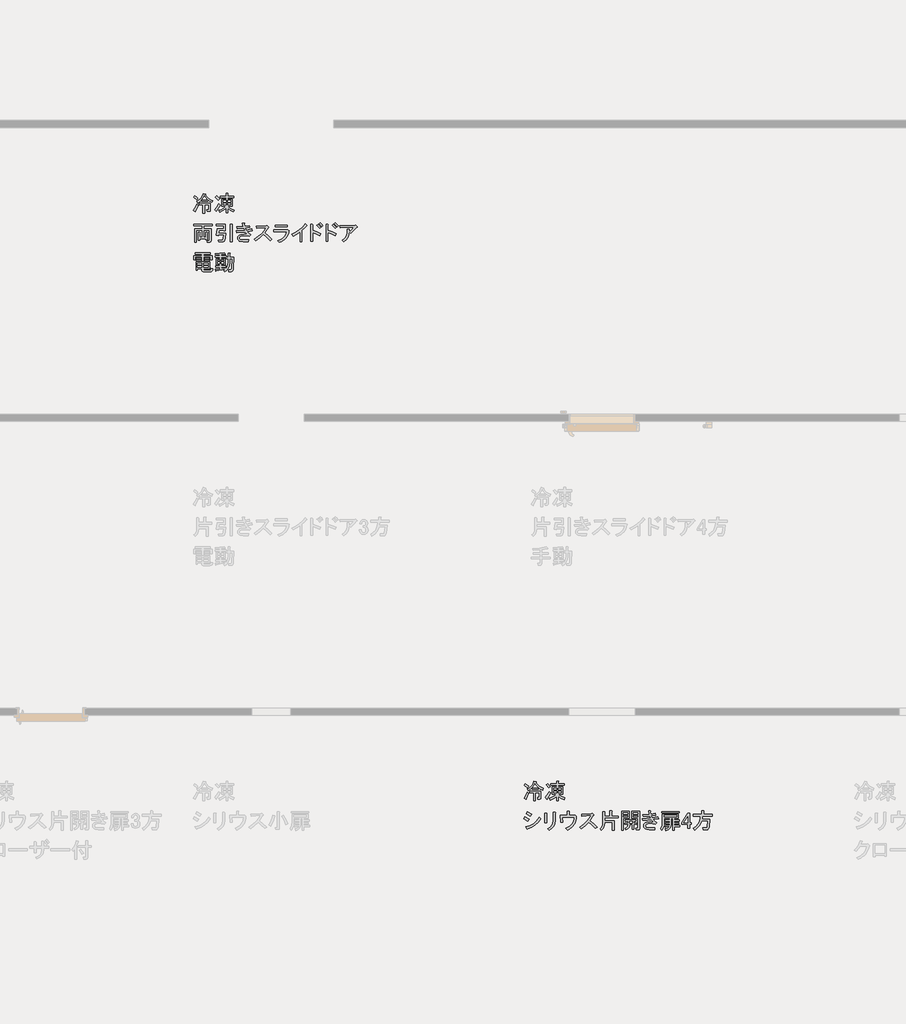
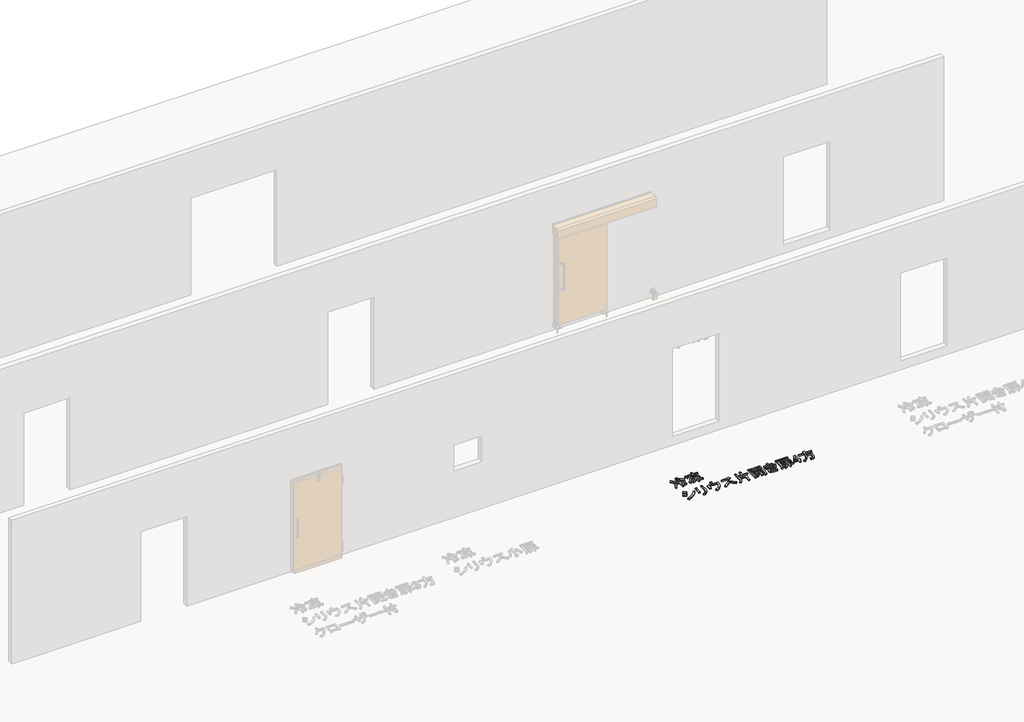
# One storey, part 99 of 117: 2 proxies.
"""IFC4 building model written with IfcOpenShell, lengths in millimetres."""

from ifc_helpers import new_model, si_unit, frame, origin, place, context, project, spatial, polyline, outline, extrude, element, save

model = new_model("IFC4")

# Units and contexts
model_context = context("Model", 3, world=origin())
ifc_project = project(units=[si_unit("LENGTHUNIT", "METRE", prefix="MILLI")], contexts=[model_context])

# Site, building, storey
site = spatial("IfcSite", under=ifc_project)
building = spatial("IfcBuilding", under=site)
storey = spatial("IfcBuildingStorey", under=building, Name="レベル 1", Elevation=500.0)

# Proxies
placement = place(None, origin())
element("IfcBuildingElementProxy", 1, Name="200㎜\u3000MS Pゴシック", ObjectType="200㎜\u3000MS Pゴシック", at=placement, inside=storey, context=model_context, shape_type="SweptSolid", body=[
    extrude(outline(polyline([(10383.6029468, 26948.5050774), (10417.2964447, 26967.9021871), (10443.6621457, 26991.6097656), (10462.7000496, 27019.6278129), (10474.4101566, 27051.9563291), (10505.4455321, 27043.9101206), (10506.882355, 27040.174381), (10501.997157, 27038.1628289), (10520.8195376, 27010.6476696), (10543.9523869, 26987.874026), (10571.3957051, 26969.8418981), (10603.149492, 26956.5512859), (10591.6549085, 26932.4126605), (10562.6310851, 26945.9187961), (10533.0325326, 26965.7469527), (10533.0325326, 26946.2061607), (10450.2715312, 26946.2061607), (10450.2715312, 26964.5974943), (10425.8455412, 26942.7577856), (10396.2469887, 26923.2169937), (10383.6029468, 26948.5050774)]), holes=[polyline([(10530.7336159, 26968.0458694), (10504.5834383, 26995.3455052), (10488.2036568, 27022.0704119), (10474.4101566, 26993.0465885), (10453.7199063, 26968.0458694), (10530.7336159, 26968.0458694)])]), frame((0.0, 0.0, 500.0), z_axis=(0.0, 0.0, 1.0), x_axis=(1.0, 0.0, 0.0)), (0.0, 0.0, 1.0), 25.0),
    extrude(outline(polyline([(10341.0729878, 26822.0646587), (10364.0621548, 26861.7209718), (10382.4534884, 26904.82566), (10403.1437388, 26892.1816181), (10385.6144989, 26848.2148362), (10367.5105299, 26812.8689919), (10366.9358007, 26806.5469709), (10362.9126965, 26805.9722417), (10341.0729878, 26822.0646587)])), frame((0.0, 0.0, 500.0), z_axis=(0.0, 0.0, 1.0), x_axis=(1.0, 0.0, 0.0)), (0.0, 0.0, 1.0), 25.0),
    extrude(outline(polyline([(10420.3856141, 26897.9289099), (10420.3856141, 26919.7686186), (10569.8151998, 26919.7686186), (10569.8151998, 26825.5130337), (10565.7920956, 26814.3058148), (10553.7227829, 26810.5700752), (10528.4346991, 26810.5700752), (10523.8368657, 26832.4097838), (10542.2281994, 26832.4097838), (10545.6765744, 26833.5592422), (10546.8260328, 26837.0076172), (10546.8260328, 26897.9289099), (10492.8014902, 26897.9289099), (10492.8014902, 26786.4314498), (10469.8123232, 26786.4314498), (10469.8123232, 26897.9289099), (10420.3856141, 26897.9289099)])), frame((0.0, 0.0, 500.0), z_axis=(0.0, 0.0, 1.0), x_axis=(1.0, 0.0, 0.0)), (0.0, 0.0, 1.0), 25.0),
    extrude(outline(polyline([(10358.314863, 27022.0704119), (10379.0051134, 27009.1390055), (10401.9942804, 26988.7361197), (10385.9018635, 26965.7469527), (10344.5213628, 27000.2307032), (10358.314863, 27022.0704119)])), frame((0.0, 0.0, 500.0), z_axis=(0.0, 0.0, 1.0), x_axis=(1.0, 0.0, 0.0)), (0.0, 0.0, 1.0), 25.0),
    extrude(outline(polyline([(10652.5762012, 26812.8689919), (10652.8635658, 26808.2711584), (10649.1278261, 26808.2711584), (10629.5870341, 26832.4097838), (10658.0361283, 26868.9050865), (10683.6115767, 26911.7224101), (10702.0029103, 26894.4805349), (10678.7263787, 26852.2379404), (10652.5762012, 26812.8689919)])), frame((0.0, 0.0, 500.0), z_axis=(0.0, 0.0, 1.0), x_axis=(1.0, 0.0, 0.0)), (0.0, 0.0, 1.0), 25.0),
    extrude(outline(polyline([(10659.4729513, 27022.0704119), (10696.2556185, 26981.8393696), (10675.5653682, 26962.2985776), (10639.9321593, 27004.8285366), (10659.4729513, 27022.0704119)])), frame((0.0, 0.0, 500.0), z_axis=(0.0, 0.0, 1.0), x_axis=(1.0, 0.0, 0.0)), (0.0, 0.0, 1.0), 25.0),
    extrude(outline(polyline([(10806.6036203, 26787.5809081), (10783.6144533, 26787.5809081), (10783.6144533, 26849.6516591), (10769.0307005, 26835.4989532), (10749.4180673, 26821.7772941), (10695.1061602, 26795.6271166), (10685.9104934, 26822.0646587), (10715.5090459, 26832.9126719), (10741.0844943, 26845.9159195), (10762.6368384, 26861.0744015), (10780.1660782, 26878.3881179), (10724.9920773, 26878.3881179), (10724.9920773, 26977.2415362), (10783.6144533, 26977.2415362), (10783.6144533, 26996.7823282), (10703.1523687, 26996.7823282), (10703.1523687, 27018.6220369), (10783.6144533, 27018.6220369), (10783.6144533, 27053.1057874), (10805.454162, 27053.1057874), (10810.33936, 27050.8068707), (10806.6036203, 27046.2090373), (10806.6036203, 27018.6220369), (10887.065705, 27018.6220369), (10887.065705, 26996.7823282), (10806.6036203, 26996.7823282), (10806.6036203, 26977.2415362), (10866.3754546, 26977.2415362), (10866.3754546, 26878.3881179), (10807.7530787, 26878.3881179), (10826.1444123, 26862.295701), (10846.8346627, 26848.5022008), (10895.1119134, 26827.8119504), (10884.7667883, 26802.5238667), (10841.6621001, 26823.5014816), (10806.6036203, 26849.6516591), (10806.6036203, 26787.5809081)]), holes=[polyline([(10806.6036203, 26937.0104939), (10846.8346627, 26937.0104939), (10846.8346627, 26958.8502026), (10806.6036203, 26958.8502026), (10806.6036203, 26937.0104939)]), polyline([(10806.6036203, 26896.7794516), (10846.8346627, 26896.7794516), (10846.8346627, 26918.6191602), (10806.6036203, 26918.6191602), (10806.6036203, 26896.7794516)]), polyline([(10744.5328693, 26896.7794516), (10783.6144533, 26896.7794516), (10783.6144533, 26918.6191602), (10744.5328693, 26918.6191602), (10744.5328693, 26896.7794516)]), polyline([(10744.5328693, 26937.0104939), (10783.6144533, 26937.0104939), (10783.6144533, 26958.8502026), (10744.5328693, 26958.8502026), (10744.5328693, 26937.0104939)])]), frame((0.0, 0.0, 500.0), z_axis=(0.0, 0.0, 1.0), x_axis=(1.0, 0.0, 0.0)), (0.0, 0.0, 1.0), 25.0),
    extrude(outline(polyline([(10480.1574484, 26611.7252868), (10480.1574484, 26576.0920778), (10581.3097833, 26576.0920778), (10581.3097833, 26407.1217001), (10577.2866791, 26395.0523874), (10565.2173664, 26391.0292832), (10529.5841575, 26391.0292832), (10526.1357824, 26412.8689919), (10553.7227829, 26412.8689919), (10557.1711579, 26414.0184502), (10558.3206163, 26417.4668253), (10558.3206163, 26554.2523692), (10480.1574484, 26554.2523692), (10480.1574484, 26458.8473259), (10507.7444488, 26458.8473259), (10507.7444488, 26524.366452), (10529.5841575, 26524.366452), (10534.4693555, 26522.0675353), (10530.7336159, 26517.4697019), (10530.7336159, 26426.6624921), (10507.7444488, 26426.6624921), (10507.7444488, 26437.0076172), (10429.5812809, 26437.0076172), (10429.5812809, 26417.4668253), (10406.5921138, 26417.4668253), (10406.5921138, 26524.366452), (10428.4318225, 26524.366452), (10433.3170205, 26522.0675353), (10429.5812809, 26517.4697019), (10429.5812809, 26458.8473259), (10457.1682813, 26458.8473259), (10457.1682813, 26554.2523692), (10379.0051134, 26554.2523692), (10379.0051134, 26392.1787415), (10356.0159463, 26392.1787415), (10356.0159463, 26576.0920778), (10457.1682813, 26576.0920778), (10457.1682813, 26611.7252868), (10342.2224461, 26611.7252868), (10342.2224461, 26633.5649954), (10595.1032836, 26633.5649954), (10595.1032836, 26611.7252868), (10480.1574484, 26611.7252868)])), frame((0.0, 0.0, 500.0), z_axis=(0.0, 0.0, 1.0), x_axis=(1.0, 0.0, 0.0)), (0.0, 0.0, 1.0), 25.0),
    extrude(outline(polyline([(10780.1660782, 26511.7224101), (10770.9704114, 26441.8928152), (10764.6483905, 26419.2628539), (10757.1769112, 26404.8227834), (10746.5444214, 26397.0639395), (10730.7393691, 26394.4776582), (10684.761035, 26394.4776582), (10681.31266, 26416.3173669), (10723.842619, 26416.3173669), (10734.4751088, 26418.328919), (10741.0844943, 26424.3635754), (10749.1307027, 26448.2148362), (10754.8779945, 26489.8827014), (10677.8642849, 26489.8827014), (10675.5653682, 26478.3881179), (10651.4267428, 26481.836493), (10667.5191597, 26574.9426195), (10753.7285361, 26574.9426195), (10753.7285361, 26611.7252868), (10647.9783678, 26611.7252868), (10647.9783678, 26633.5649954), (10776.7177032, 26633.5649954), (10776.7177032, 26547.355619), (10753.7285361, 26547.355619), (10753.7285361, 26553.1029108), (10689.3588684, 26553.1029108), (10682.4621183, 26511.7224101), (10780.1660782, 26511.7224101)])), frame((0.0, 0.0, 500.0), z_axis=(0.0, 0.0, 1.0), x_axis=(1.0, 0.0, 0.0)), (0.0, 0.0, 1.0), 25.0),
    extrude(outline(polyline([(10866.3754546, 26396.7765749), (10843.3862876, 26396.7765749), (10843.3862876, 26637.0133705), (10865.2259963, 26637.0133705), (10870.1111943, 26634.7144538), (10866.3754546, 26630.1166204), (10866.3754546, 26396.7765749)])), frame((0.0, 0.0, 500.0), z_axis=(0.0, 0.0, 1.0), x_axis=(1.0, 0.0, 0.0)), (0.0, 0.0, 1.0), 25.0),
    extrude(outline(polyline([(11046.8404159, 26582.988828), (11060.6339161, 26554.2523692), (11133.0497923, 26570.3447861), (11143.3949175, 26546.2061607), (11073.277958, 26533.5621188), (11093.1061146, 26511.147681), (11118.1068337, 26489.8827014), (11098.5660418, 26470.3419095), (11061.4960099, 26477.2386596), (11033.0469157, 26479.5375763), (10995.1147901, 26476.0892012), (10982.1833836, 26471.7787324), (10973.2750814, 26465.7440761), (10967.240425, 26457.410503), (10965.2288729, 26448.5022008), (10966.9530605, 26438.1570756), (10972.125623, 26430.1108671), (10989.6548629, 26423.214117), (11023.8512489, 26420.9152003), (11093.9682084, 26420.9152003), (11089.3703749, 26395.6271166), (11019.2534155, 26395.6271166), (10980.1718315, 26400.22495), (10965.8036021, 26405.9722417), (10954.8837478, 26414.0184502), (10944.5386226, 26429.8235025), (10941.0902475, 26449.6516591), (10944.251258, 26465.7440761), (10953.7342894, 26479.5375763), (10966.0909667, 26488.0866728), (10983.6202066, 26494.1931703), (11034.196374, 26499.0783683), (11075.5768747, 26495.6299932), (11046.8404159, 26528.9642854), (10990.2295921, 26523.7917228), (10928.4462057, 26522.0675353), (10924.9978306, 26546.2061607), (10981.896019, 26546.7808899), (11035.3458324, 26550.8039941), (11022.7017905, 26579.5404529), (10934.1934974, 26576.0920778), (10931.8945807, 26599.0812449), (11016.9544988, 26601.3801616), (11007.7588319, 26648.507954), (11033.0469157, 26648.507954), (11039.081572, 26645.059579), (11034.196374, 26639.3122872), (11039.9436658, 26604.8285366), (11100.8649585, 26616.3231202), (11108.9111669, 26593.3339531), (11046.8404159, 26582.988828)])), frame((0.0, 0.0, 500.0), z_axis=(0.0, 0.0, 1.0), x_axis=(1.0, 0.0, 0.0)), (0.0, 0.0, 1.0), 25.0),
    extrude(outline(polyline([(11311.2618152, 26517.4697019), (11360.4011598, 26476.6639304), (11408.9657751, 26430.1108671), (11385.9766081, 26410.5700752), (11338.5614511, 26457.1231384), (11292.8704816, 26495.6299932), (11244.8805954, 26449.9390237), (11190.5686883, 26409.4206168), (11168.7289796, 26428.9614088), (11224.1903451, 26468.6177219), (11268.7318562, 26508.2740351), (11302.353513, 26547.9303482), (11325.0553154, 26587.5866614), (11199.7643551, 26579.5404529), (11196.31598, 26607.1274534), (11329.6531489, 26612.8747451), (11343.4466491, 26616.3231202), (11361.8379827, 26597.9317865), (11364.7116286, 26591.322401), (11357.2401493, 26587.5866614), (11311.2618152, 26517.4697019)])), frame((0.0, 0.0, 500.0), z_axis=(0.0, 0.0, 1.0), x_axis=(1.0, 0.0, 0.0)), (0.0, 0.0, 1.0), 25.0),
    extrude(outline(polyline([(11615.1786035, 26597.9317865), (11456.5533509, 26597.9317865), (11456.5533509, 26623.2198703), (11615.1786035, 26623.2198703), (11615.1786035, 26597.9317865)])), frame((0.0, 0.0, 500.0), z_axis=(0.0, 0.0, 1.0), x_axis=(1.0, 0.0, 0.0)), (0.0, 0.0, 1.0), 25.0),
    extrude(outline(polyline([(11485.2898097, 26411.7195335), (11534.9320423, 26430.039026), (11555.1732855, 26442.1622195), (11572.3612799, 26456.2610446), (11586.4960256, 26472.3355013), (11597.5775225, 26490.3855895), (11605.6057707, 26510.4113092), (11610.5807701, 26532.4126605), (11435.8631006, 26532.4126605), (11435.8631006, 26557.7007442), (11611.7302284, 26557.7007442), (11622.0753536, 26561.1491193), (11642.765604, 26548.5050774), (11645.6392498, 26543.0451502), (11640.4666872, 26538.1599522), (11634.3422295, 26510.6807135), (11625.1645229, 26485.7159149), (11612.9335677, 26463.2655565), (11597.6493636, 26443.3296382), (11579.3119109, 26425.90816), (11557.9212093, 26411.001122), (11533.4772591, 26398.6085242), (11505.9800601, 26388.7303665), (11485.2898097, 26411.7195335)])), frame((0.0, 0.0, 500.0), z_axis=(0.0, 0.0, 1.0), x_axis=(1.0, 0.0, 0.0)), (0.0, 0.0, 1.0), 25.0),
    extrude(outline(polyline([(11677.6631595, 26496.7794516), (11734.3458245, 26524.6538166), (11783.7006925, 26557.7007442), (11825.7277635, 26595.9202344), (11860.4270375, 26639.3122872), (11882.2667462, 26620.9209536), (11884.8530275, 26614.8862972), (11874.2205377, 26610.5758284), (11849.2198186, 26581.552005), (11817.8970785, 26551.9534525), (11817.8970785, 26395.6271166), (11791.4595364, 26395.6271166), (11791.4595364, 26530.1137438), (11747.780119, 26500.5151912), (11697.2039515, 26473.7902845), (11677.6631595, 26496.7794516)])), frame((0.0, 0.0, 500.0), z_axis=(0.0, 0.0, 1.0), x_axis=(1.0, 0.0, 0.0)), (0.0, 0.0, 1.0), 25.0),
    extrude(outline(polyline([(12062.6397508, 26480.6870346), (12007.1783853, 26506.5498475), (11962.6368742, 26522.0675353), (11962.6368742, 26402.5238667), (11936.1993321, 26402.5238667), (11936.1993321, 26632.4155371), (11959.1884991, 26632.4155371), (11966.947343, 26629.5418912), (11962.6368742, 26623.2198703), (11962.6368742, 26550.8039941), (12019.247698, 26531.8379313), (12076.433251, 26507.1245767), (12062.6397508, 26480.6870346)])), frame((0.0, 0.0, 500.0), z_axis=(0.0, 0.0, 1.0), x_axis=(1.0, 0.0, 0.0)), (0.0, 0.0, 1.0), 25.0),
    extrude(outline(polyline([(12060.3408341, 26581.8393696), (12040.8000421, 26603.6790783), (12021.2592501, 26620.9209536), (12036.2022087, 26632.4155371), (12055.7430007, 26615.1736618), (12075.2837927, 26593.3339531), (12060.3408341, 26581.8393696)])), frame((0.0, 0.0, 500.0), z_axis=(0.0, 0.0, 1.0), x_axis=(1.0, 0.0, 0.0)), (0.0, 0.0, 1.0), 25.0),
    extrude(outline(polyline([(12087.9278345, 26603.6790783), (12070.9733238, 26622.9325057), (12049.9957089, 26641.6112039), (12064.9386675, 26653.1057874), (12084.1920949, 26636.7260059), (12102.8707931, 26615.1736618), (12087.9278345, 26603.6790783)])), frame((0.0, 0.0, 500.0), z_axis=(0.0, 0.0, 1.0), x_axis=(1.0, 0.0, 0.0)), (0.0, 0.0, 1.0), 25.0),
    extrude(outline(polyline([(12271.5653009, 26480.6870346), (12216.1039354, 26506.5498475), (12171.5624242, 26522.0675353), (12171.5624242, 26402.5238667), (12145.1248821, 26402.5238667), (12145.1248821, 26632.4155371), (12168.1140492, 26632.4155371), (12175.872893, 26629.5418912), (12171.5624242, 26623.2198703), (12171.5624242, 26550.8039941), (12228.1732481, 26531.8379313), (12285.3588011, 26507.1245767), (12271.5653009, 26480.6870346)])), frame((0.0, 0.0, 500.0), z_axis=(0.0, 0.0, 1.0), x_axis=(1.0, 0.0, 0.0)), (0.0, 0.0, 1.0), 25.0),
    extrude(outline(polyline([(12269.2663841, 26581.8393696), (12249.7255922, 26603.6790783), (12230.1848002, 26620.9209536), (12245.1277588, 26632.4155371), (12264.6685507, 26615.1736618), (12284.2093427, 26593.3339531), (12269.2663841, 26581.8393696)])), frame((0.0, 0.0, 500.0), z_axis=(0.0, 0.0, 1.0), x_axis=(1.0, 0.0, 0.0)), (0.0, 0.0, 1.0), 25.0),
    extrude(outline(polyline([(12296.8533846, 26603.6790783), (12279.8988739, 26622.9325057), (12258.921259, 26641.6112039), (12273.8642176, 26653.1057874), (12293.117645, 26636.7260059), (12311.7963432, 26615.1736618), (12296.8533846, 26603.6790783)])), frame((0.0, 0.0, 500.0), z_axis=(0.0, 0.0, 1.0), x_axis=(1.0, 0.0, 0.0)), (0.0, 0.0, 1.0), 25.0),
    extrude(outline(polyline([(12459.8006006, 26530.1137438), (12455.9930198, 26488.8769254), (12442.2713607, 26452.525305), (12418.6356234, 26421.0588826), (12385.0858077, 26394.4776582), (12365.5450157, 26416.3173669), (12395.2154094, 26436.5765704), (12416.4085478, 26460.5715135), (12429.1244308, 26488.3021962), (12433.3630585, 26519.7686186), (12433.3630585, 26569.1953277), (12457.5016839, 26569.1953277), (12463.2489756, 26566.6090464), (12459.8006006, 26561.1491193), (12459.8006006, 26531.2632021), (12496.2959033, 26562.011213), (12523.0208099, 26592.1844948), (12335.6590986, 26585.2877447), (12333.3601819, 26611.7252868), (12542.5616019, 26617.4725785), (12550.6078104, 26619.7714952), (12567.8496857, 26599.0812449), (12568.1370503, 26595.9202344), (12562.1023939, 26595.6328698), (12524.1702683, 26552.240817), (12479.3413926, 26511.7224101), (12459.8006006, 26530.1137438)])), frame((0.0, 0.0, 500.0), z_axis=(0.0, 0.0, 1.0), x_axis=(1.0, 0.0, 0.0)), (0.0, 0.0, 1.0), 25.0),
    extrude(outline(polyline([(10381.3040301, 26165.7469527), (10381.3040301, 26179.5404529), (10444.5242394, 26179.5404529), (10444.5242394, 26165.7469527), (10381.3040301, 26165.7469527)])), frame((0.0, 0.0, 500.0), z_axis=(0.0, 0.0, 1.0), x_axis=(1.0, 0.0, 0.0)), (0.0, 0.0, 1.0), 25.0),
    extrude(outline(polyline([(10444.5242394, 26138.1599522), (10381.3040301, 26138.1599522), (10381.3040301, 26151.9534525), (10444.5242394, 26151.9534525), (10444.5242394, 26138.1599522)])), frame((0.0, 0.0, 500.0), z_axis=(0.0, 0.0, 1.0), x_axis=(1.0, 0.0, 0.0)), (0.0, 0.0, 1.0), 25.0),
    extrude(outline(polyline([(10491.6520319, 26138.1599522), (10491.6520319, 26151.9534525), (10558.3206163, 26151.9534525), (10558.3206163, 26138.1599522), (10491.6520319, 26138.1599522)])), frame((0.0, 0.0, 500.0), z_axis=(0.0, 0.0, 1.0), x_axis=(1.0, 0.0, 0.0)), (0.0, 0.0, 1.0), 25.0),
    extrude(outline(polyline([(10491.6520319, 26165.7469527), (10491.6520319, 26179.5404529), (10558.3206163, 26179.5404529), (10558.3206163, 26165.7469527), (10491.6520319, 26165.7469527)])), frame((0.0, 0.0, 500.0), z_axis=(0.0, 0.0, 1.0), x_axis=(1.0, 0.0, 0.0)), (0.0, 0.0, 1.0), 25.0),
    extrude(outline(polyline([(10570.9646582, 26226.6682453), (10479.00799, 26226.6682453), (10479.00799, 26208.2769117), (10593.9538252, 26208.2769117), (10593.9538252, 26153.1029108), (10570.9646582, 26153.1029108), (10570.9646582, 26194.4834115), (10479.00799, 26194.4834115), (10479.00799, 26128.9642854), (10456.018823, 26128.9642854), (10456.018823, 26194.4834115), (10367.5105299, 26194.4834115), (10367.5105299, 26148.5050774), (10344.5213628, 26148.5050774), (10344.5213628, 26208.2769117), (10456.018823, 26208.2769117), (10456.018823, 26226.6682453), (10364.0621548, 26226.6682453), (10364.0621548, 26245.059579), (10570.9646582, 26245.059579), (10570.9646582, 26226.6682453)])), frame((0.0, 0.0, 500.0), z_axis=(0.0, 0.0, 1.0), x_axis=(1.0, 0.0, 0.0)), (0.0, 0.0, 1.0), 25.0),
    extrude(outline(polyline([(10603.149492, 26030.1108671), (10600.3476873, 26011.5040101), (10593.0917314, 25998.2133979), (10581.3816245, 25990.2390306), (10565.2173664, 25987.5809081), (10475.559615, 25987.5809081), (10460.0419272, 25992.4661061), (10456.1625053, 25998.5726036), (10454.8693646, 26007.1217001), (10454.8693646, 26028.9614088), (10395.0975303, 26028.9614088), (10395.0975303, 26009.4206168), (10375.5567383, 26009.4206168), (10375.5567383, 26122.0675353), (10562.9184497, 26122.0675353), (10562.9184497, 26028.9614088), (10477.8585317, 26028.9614088), (10477.8585317, 26018.6162836), (10479.8700838, 26011.7195335), (10485.9047401, 26009.4206168), (10561.7689914, 26009.4206168), (10568.3783769, 26011.001122), (10573.2635749, 26015.7426377), (10577.8614083, 26034.7087005), (10603.149492, 26030.1108671)]), holes=[polyline([(10477.8585317, 26085.284868), (10543.3776577, 26085.284868), (10543.3776577, 26103.6762017), (10477.8585317, 26103.6762017), (10477.8585317, 26085.284868)]), polyline([(10395.0975303, 26047.3527424), (10454.8693646, 26047.3527424), (10454.8693646, 26066.8935344), (10395.0975303, 26066.8935344), (10395.0975303, 26047.3527424)]), polyline([(10395.0975303, 26085.284868), (10454.8693646, 26085.284868), (10454.8693646, 26103.6762017), (10395.0975303, 26103.6762017), (10395.0975303, 26085.284868)]), polyline([(10477.8585317, 26047.3527424), (10543.3776577, 26047.3527424), (10543.3776577, 26066.8935344), (10477.8585317, 26066.8935344), (10477.8585317, 26047.3527424)])]), frame((0.0, 0.0, 500.0), z_axis=(0.0, 0.0, 1.0), x_axis=(1.0, 0.0, 0.0)), (0.0, 0.0, 1.0), 25.0),
    extrude(outline(polyline([(10751.4296194, 26007.1217001), (10775.5682448, 26024.3635754), (10646.8289094, 26000.22495), (10644.8173573, 25995.339752), (10641.0816176, 25996.7765749), (10634.1848675, 26022.0646587), (10700.853452, 26030.1108671), (10700.853452, 26050.8011175), (10646.8289094, 26050.8011175), (10646.8289094, 26069.1924511), (10700.853452, 26069.1924511), (10700.853452, 26086.4343264), (10674.4159099, 26086.4343264), (10649.1278261, 26086.4343264), (10649.1278261, 26168.0458694), (10700.853452, 26168.0458694), (10700.853452, 26184.1382863), (10634.1848675, 26184.1382863), (10634.1848675, 26202.5296199), (10700.853452, 26202.5296199), (10700.853452, 26216.3231202), (10643.3805344, 26214.0242035), (10639.9321593, 26233.5649954), (10698.2671707, 26236.7260059), (10760.6252863, 26246.2090373), (10770.9704114, 26226.6682453), (10770.9704114, 26222.6451411), (10764.0736613, 26224.3693286), (10720.3942439, 26218.6220369), (10720.3942439, 26202.5296199), (10783.6144533, 26202.5296199), (10783.6144533, 26184.1382863), (10720.3942439, 26184.1382863), (10720.3942439, 26168.0458694), (10773.2693281, 26168.0458694), (10773.2693281, 26086.4343264), (10720.3942439, 26086.4343264), (10720.3942439, 26069.1924511), (10777.8671615, 26069.1924511), (10777.8671615, 26050.8011175), (10720.3942439, 26050.8011175), (10720.3942439, 26033.5592422), (10777.8671615, 26042.754909), (10777.8671615, 26026.6624921), (10792.5227555, 26043.5451616), (10803.1552453, 26064.3072531), (10809.7646308, 26088.9487665), (10812.3509121, 26117.4697019), (10813.5003705, 26162.2985776), (10785.91337, 26162.2985776), (10785.91337, 26184.1382863), (10813.5003705, 26184.1382863), (10813.5003705, 26242.7606623), (10835.3400791, 26242.7606623), (10840.2252771, 26240.4617456), (10836.4895375, 26235.8639122), (10836.4895375, 26184.1382863), (10887.065705, 26184.1382863), (10884.7667883, 26032.4097838), (10882.4678716, 26014.3058148), (10876.7205798, 26001.3744083), (10867.524913, 25993.6155645), (10854.8808711, 25991.0292832), (10823.8454956, 25991.0292832), (10820.3971206, 26012.8689919), (10846.8346627, 26012.8689919), (10852.9411602, 26014.3776559), (10857.4671524, 26018.9036482), (10861.7776212, 26037.0076172), (10865.2259963, 26162.2985776), (10836.4895375, 26162.2985776), (10835.3400791, 26108.2740351), (10830.5267223, 26070.8447975), (10817.2361101, 26037.869711), (10795.4682426, 26009.3487757), (10765.2231197, 25985.2819914), (10751.4296194, 26007.1217001)]), holes=[polyline([(10720.3942439, 26120.9180769), (10720.3942439, 26100.2278266), (10753.7285361, 26100.2278266), (10753.7285361, 26120.9180769), (10720.3942439, 26120.9180769)]), polyline([(10720.3942439, 26154.2523692), (10720.3942439, 26134.7115772), (10753.7285361, 26134.7115772), (10753.7285361, 26154.2523692), (10720.3942439, 26154.2523692)]), polyline([(10668.6686181, 26120.9180769), (10668.6686181, 26100.2278266), (10700.853452, 26100.2278266), (10700.853452, 26120.9180769), (10668.6686181, 26120.9180769)]), polyline([(10668.6686181, 26154.2523692), (10668.6686181, 26134.7115772), (10700.853452, 26134.7115772), (10700.853452, 26154.2523692), (10668.6686181, 26154.2523692)])]), frame((0.0, 0.0, 500.0), z_axis=(0.0, 0.0, 1.0), x_axis=(1.0, 0.0, 0.0)), (0.0, 0.0, 1.0), 25.0),
])
element("IfcBuildingElementProxy", 2, Name="200㎜\u3000MS Pゴシック", ObjectType="200㎜\u3000MS Pゴシック", at=placement, inside=storey, context=model_context, shape_type="SweptSolid", body=[
    extrude(outline(polyline([(14883.6029468, 18948.5050774), (14917.2964447, 18967.9021871), (14943.6621457, 18991.6097656), (14962.7000496, 19019.6278129), (14974.4101566, 19051.9563291), (15005.4455321, 19043.9101206), (15006.882355, 19040.174381), (15001.997157, 19038.1628289), (15020.8195376, 19010.6476696), (15043.9523869, 18987.874026), (15071.3957051, 18969.8418981), (15103.149492, 18956.5512859), (15091.6549085, 18932.4126605), (15062.6310851, 18945.9187961), (15033.0325326, 18965.7469527), (15033.0325326, 18946.2061607), (14950.2715312, 18946.2061607), (14950.2715312, 18964.5974943), (14925.8455412, 18942.7577856), (14896.2469887, 18923.2169937), (14883.6029468, 18948.5050774)]), holes=[polyline([(15030.7336159, 18968.0458694), (15004.5834383, 18995.3455052), (14988.2036568, 19022.0704119), (14974.4101566, 18993.0465885), (14953.7199063, 18968.0458694), (15030.7336159, 18968.0458694)])]), frame((0.0, 0.0, 500.0), z_axis=(0.0, 0.0, 1.0), x_axis=(1.0, 0.0, 0.0)), (0.0, 0.0, 1.0), 25.0),
    extrude(outline(polyline([(14841.0729878, 18822.0646587), (14864.0621548, 18861.7209718), (14882.4534884, 18904.82566), (14903.1437388, 18892.1816181), (14885.6144989, 18848.2148362), (14867.5105299, 18812.8689919), (14866.9358007, 18806.5469709), (14862.9126965, 18805.9722417), (14841.0729878, 18822.0646587)])), frame((0.0, 0.0, 500.0), z_axis=(0.0, 0.0, 1.0), x_axis=(1.0, 0.0, 0.0)), (0.0, 0.0, 1.0), 25.0),
    extrude(outline(polyline([(14920.3856141, 18897.9289099), (14920.3856141, 18919.7686186), (15069.8151998, 18919.7686186), (15069.8151998, 18825.5130337), (15065.7920956, 18814.3058148), (15053.7227829, 18810.5700752), (15028.4346991, 18810.5700752), (15023.8368657, 18832.4097838), (15042.2281994, 18832.4097838), (15045.6765744, 18833.5592422), (15046.8260328, 18837.0076172), (15046.8260328, 18897.9289099), (14992.8014902, 18897.9289099), (14992.8014902, 18786.4314498), (14969.8123232, 18786.4314498), (14969.8123232, 18897.9289099), (14920.3856141, 18897.9289099)])), frame((0.0, 0.0, 500.0), z_axis=(0.0, 0.0, 1.0), x_axis=(1.0, 0.0, 0.0)), (0.0, 0.0, 1.0), 25.0),
    extrude(outline(polyline([(14858.314863, 19022.0704119), (14879.0051134, 19009.1390055), (14901.9942804, 18988.7361197), (14885.9018635, 18965.7469527), (14844.5213628, 19000.2307032), (14858.314863, 19022.0704119)])), frame((0.0, 0.0, 500.0), z_axis=(0.0, 0.0, 1.0), x_axis=(1.0, 0.0, 0.0)), (0.0, 0.0, 1.0), 25.0),
    extrude(outline(polyline([(15152.5762012, 18812.8689919), (15152.8635658, 18808.2711584), (15149.1278261, 18808.2711584), (15129.5870341, 18832.4097838), (15158.0361283, 18868.9050865), (15183.6115767, 18911.7224101), (15202.0029103, 18894.4805349), (15178.7263787, 18852.2379404), (15152.5762012, 18812.8689919)])), frame((0.0, 0.0, 500.0), z_axis=(0.0, 0.0, 1.0), x_axis=(1.0, 0.0, 0.0)), (0.0, 0.0, 1.0), 25.0),
    extrude(outline(polyline([(15159.4729513, 19022.0704119), (15196.2556185, 18981.8393696), (15175.5653682, 18962.2985776), (15139.9321593, 19004.8285366), (15159.4729513, 19022.0704119)])), frame((0.0, 0.0, 500.0), z_axis=(0.0, 0.0, 1.0), x_axis=(1.0, 0.0, 0.0)), (0.0, 0.0, 1.0), 25.0),
    extrude(outline(polyline([(15306.6036203, 18787.5809081), (15283.6144533, 18787.5809081), (15283.6144533, 18849.6516591), (15269.0307005, 18835.4989532), (15249.4180673, 18821.7772941), (15195.1061602, 18795.6271166), (15185.9104934, 18822.0646587), (15215.5090459, 18832.9126719), (15241.0844943, 18845.9159195), (15262.6368384, 18861.0744015), (15280.1660782, 18878.3881179), (15224.9920773, 18878.3881179), (15224.9920773, 18977.2415362), (15283.6144533, 18977.2415362), (15283.6144533, 18996.7823282), (15203.1523687, 18996.7823282), (15203.1523687, 19018.6220369), (15283.6144533, 19018.6220369), (15283.6144533, 19053.1057874), (15305.454162, 19053.1057874), (15310.33936, 19050.8068707), (15306.6036203, 19046.2090373), (15306.6036203, 19018.6220369), (15387.065705, 19018.6220369), (15387.065705, 18996.7823282), (15306.6036203, 18996.7823282), (15306.6036203, 18977.2415362), (15366.3754546, 18977.2415362), (15366.3754546, 18878.3881179), (15307.7530787, 18878.3881179), (15326.1444123, 18862.295701), (15346.8346627, 18848.5022008), (15395.1119134, 18827.8119504), (15384.7667883, 18802.5238667), (15341.6621001, 18823.5014816), (15306.6036203, 18849.6516591), (15306.6036203, 18787.5809081)]), holes=[polyline([(15306.6036203, 18937.0104939), (15346.8346627, 18937.0104939), (15346.8346627, 18958.8502026), (15306.6036203, 18958.8502026), (15306.6036203, 18937.0104939)]), polyline([(15306.6036203, 18896.7794516), (15346.8346627, 18896.7794516), (15346.8346627, 18918.6191602), (15306.6036203, 18918.6191602), (15306.6036203, 18896.7794516)]), polyline([(15244.5328693, 18896.7794516), (15283.6144533, 18896.7794516), (15283.6144533, 18918.6191602), (15244.5328693, 18918.6191602), (15244.5328693, 18896.7794516)]), polyline([(15244.5328693, 18937.0104939), (15283.6144533, 18937.0104939), (15283.6144533, 18958.8502026), (15244.5328693, 18958.8502026), (15244.5328693, 18937.0104939)])]), frame((0.0, 0.0, 500.0), z_axis=(0.0, 0.0, 1.0), x_axis=(1.0, 0.0, 0.0)), (0.0, 0.0, 1.0), 25.0),
    extrude(outline(polyline([(14860.6137797, 18431.2603255), (14919.379838, 18449.7235003), (14970.3870524, 18477.5260242), (15013.6354229, 18514.6678972), (15049.1249495, 18561.1491193), (15069.8151998, 18540.4588689), (15036.4809076, 18496.7794516), (14995.1004069, 18459.9967843), (14945.6736978, 18430.1108671), (14888.2007802, 18407.1217001), (14883.6029468, 18399.9375854), (14876.7061967, 18405.9722417), (14860.6137797, 18431.2603255)])), frame((0.0, 0.0, 500.0), z_axis=(0.0, 0.0, 1.0), x_axis=(1.0, 0.0, 0.0)), (0.0, 0.0, 1.0), 25.0),
    extrude(outline(polyline([(14852.5675713, 18570.3447861), (14911.1899472, 18533.5621188), (14892.7986136, 18509.4234934), (14835.325696, 18546.2061607), (14852.5675713, 18570.3447861)])), frame((0.0, 0.0, 500.0), z_axis=(0.0, 0.0, 1.0), x_axis=(1.0, 0.0, 0.0)), (0.0, 0.0, 1.0), 25.0),
    extrude(outline(polyline([(14884.7524051, 18638.1628289), (14943.3747811, 18601.3801616), (14927.2823642, 18577.2415362), (14869.8094466, 18614.0242035), (14884.7524051, 18638.1628289)])), frame((0.0, 0.0, 500.0), z_axis=(0.0, 0.0, 1.0), x_axis=(1.0, 0.0, 0.0)), (0.0, 0.0, 1.0), 25.0),
    extrude(outline(polyline([(15264.5334447, 18514.0213268), (15259.5045644, 18473.9339668), (15244.4179235, 18439.8812631), (15219.273522, 18411.8632158), (15184.07136, 18389.8798248), (15161.082193, 18409.4206168), (15194.344644, 18428.9614088), (15218.267746, 18453.1000342), (15232.8514988, 18481.836493), (15238.0959026, 18515.1707852), (15238.0959026, 18630.1166204), (15262.234528, 18630.1166204), (15268.5565489, 18626.6682453), (15264.5334447, 18620.9209536), (15264.5334447, 18514.0213268)])), frame((0.0, 0.0, 500.0), z_axis=(0.0, 0.0, 1.0), x_axis=(1.0, 0.0, 0.0)), (0.0, 0.0, 1.0), 25.0),
    extrude(outline(polyline([(15146.1392344, 18488.7332431), (15119.7016923, 18488.7332431), (15119.7016923, 18618.6220369), (15144.989776, 18618.6220369), (15151.0244324, 18615.748391), (15146.1392344, 18609.4263701), (15146.1392344, 18488.7332431)])), frame((0.0, 0.0, 500.0), z_axis=(0.0, 0.0, 1.0), x_axis=(1.0, 0.0, 0.0)), (0.0, 0.0, 1.0), 25.0),
    extrude(outline(polyline([(15553.047491, 18574.9426195), (15551.1616609, 18544.6436157), (15545.5041706, 18516.3920847), (15536.07502, 18490.1880263), (15522.8742093, 18466.0314406), (15505.9017383, 18443.9223276), (15485.1576071, 18423.8606873), (15460.6418157, 18405.8465197), (15432.3543641, 18389.8798248), (15410.5146554, 18411.7195335), (15459.3666353, 18440.1686277), (15478.6200627, 18456.7639327), (15494.4251151, 18474.9397429), (15506.7817923, 18494.6960583), (15515.6900946, 18516.032879), (15521.1500218, 18538.9502048), (15523.1615739, 18563.448036), (15363.3868629, 18563.448036), (15365.6857796, 18495.6299932), (15339.2482375, 18495.6299932), (15335.7998625, 18588.7361197), (15426.6070723, 18588.7361197), (15426.6070723, 18646.2090373), (15449.5962393, 18646.2090373), (15457.3550832, 18643.3353914), (15453.0446144, 18637.0133705), (15453.0446144, 18588.7361197), (15539.2539908, 18588.7361197), (15553.047491, 18574.9426195)])), frame((0.0, 0.0, 500.0), z_axis=(0.0, 0.0, 1.0), x_axis=(1.0, 0.0, 0.0)), (0.0, 0.0, 1.0), 25.0),
    extrude(outline(polyline([(15737.6964807, 18517.4697019), (15786.8358252, 18476.6639304), (15835.4004406, 18430.1108671), (15812.4112736, 18410.5700752), (15764.9961166, 18457.1231384), (15719.3051471, 18495.6299932), (15671.3152609, 18449.9390237), (15617.0033537, 18409.4206168), (15595.163645, 18428.9614088), (15650.6250105, 18468.6177219), (15695.1665217, 18508.2740351), (15728.7881785, 18547.9303482), (15751.4899809, 18587.5866614), (15626.1990205, 18579.5404529), (15622.7506455, 18607.1274534), (15756.0878143, 18612.8747451), (15769.8813145, 18616.3231202), (15788.2726482, 18597.9317865), (15791.1462941, 18591.322401), (15783.6748148, 18587.5866614), (15737.6964807, 18517.4697019)])), frame((0.0, 0.0, 500.0), z_axis=(0.0, 0.0, 1.0), x_axis=(1.0, 0.0, 0.0)), (0.0, 0.0, 1.0), 25.0),
    extrude(outline(polyline([(15935.8631006, 18637.0133705), (15941.8977569, 18633.5649954), (15937.0125589, 18627.8177037), (15937.0125589, 18579.5404529), (16008.2789768, 18579.5404529), (16008.2789768, 18648.507954), (16033.5670605, 18648.507954), (16039.6017169, 18645.059579), (16034.7165189, 18639.3122872), (16034.7165189, 18579.5404529), (16119.7764369, 18579.5404529), (16119.7764369, 18554.2523692), (15937.0125589, 18554.2523692), (15937.0125589, 18517.4697019), (16066.9013527, 18517.4697019), (16066.9013527, 18388.7303665), (16040.4638106, 18388.7303665), (16040.4638106, 18492.1816181), (15937.0125589, 18492.1816181), (15937.0125589, 18480.6870346), (15934.2825953, 18453.7466045), (15926.0927046, 18429.2487734), (15912.4428867, 18407.1935412), (15893.3331416, 18387.5809081), (15874.9418079, 18405.9722417), (15892.0400009, 18421.5617706), (15904.2529959, 18439.5938985), (15911.5807929, 18460.0686254), (15914.0233919, 18482.9859513), (15914.0233919, 18637.0133705), (15935.8631006, 18637.0133705)])), frame((0.0, 0.0, 500.0), z_axis=(0.0, 0.0, 1.0), x_axis=(1.0, 0.0, 0.0)), (0.0, 0.0, 1.0), 25.0),
    extrude(outline(polyline([(16273.8038561, 18548.5050774), (16193.3417714, 18548.5050774), (16193.3417714, 18387.5809081), (16170.3526044, 18387.5809081), (16170.3526044, 18643.9101206), (16273.8038561, 18643.9101206), (16273.8038561, 18548.5050774)]), holes=[polyline([(16250.814689, 18625.518787), (16193.3417714, 18625.518787), (16193.3417714, 18604.8285366), (16250.814689, 18604.8285366), (16250.814689, 18625.518787)]), polyline([(16193.3417714, 18566.896411), (16250.814689, 18566.896411), (16250.814689, 18586.437203), (16193.3417714, 18586.437203), (16193.3417714, 18566.896411)])]), frame((0.0, 0.0, 500.0), z_axis=(0.0, 0.0, 1.0), x_axis=(1.0, 0.0, 0.0)), (0.0, 0.0, 1.0), 25.0),
    extrude(outline(polyline([(16304.8392316, 18643.9101206), (16412.8883167, 18643.9101206), (16412.8883167, 18409.4206168), (16408.2904833, 18395.6271166), (16394.496983, 18391.0292832), (16366.9099826, 18391.0292832), (16363.4616075, 18412.8689919), (16385.3013162, 18412.8689919), (16388.7496913, 18414.0184502), (16389.8991496, 18417.4668253), (16389.8991496, 18548.5050774), (16347.3691906, 18548.5050774), (16304.8392316, 18548.5050774), (16304.8392316, 18643.9101206)]), holes=[polyline([(16389.8991496, 18604.8285366), (16389.8991496, 18625.518787), (16327.8283986, 18625.518787), (16327.8283986, 18604.8285366), (16389.8991496, 18604.8285366)]), polyline([(16327.8283986, 18566.896411), (16389.8991496, 18566.896411), (16389.8991496, 18586.437203), (16327.8283986, 18586.437203), (16327.8283986, 18566.896411)])]), frame((0.0, 0.0, 500.0), z_axis=(0.0, 0.0, 1.0), x_axis=(1.0, 0.0, 0.0)), (0.0, 0.0, 1.0), 25.0),
    extrude(outline(polyline([(16209.4341884, 18465.7440761), (16209.4341884, 18484.1354097), (16255.4125225, 18484.1354097), (16255.4125225, 18511.7224101), (16217.4803968, 18511.7224101), (16217.4803968, 18530.1137438), (16362.3121492, 18530.1137438), (16362.3121492, 18511.7224101), (16332.426232, 18511.7224101), (16332.426232, 18484.1354097), (16371.507816, 18484.1354097), (16371.507816, 18465.7440761), (16332.426232, 18465.7440761), (16332.426232, 18396.7765749), (16309.437065, 18396.7765749), (16309.437065, 18465.7440761), (16278.4016895, 18465.7440761), (16276.0309316, 18442.1083387), (16266.6197414, 18421.7772941), (16250.1681187, 18404.7509422), (16226.6760637, 18391.0292832), (16215.1814801, 18412.8689919), (16232.7825611, 18421.7772941), (16245.3547619, 18433.5592422), (16252.8980823, 18448.2148362), (16255.4125225, 18465.7440761), (16209.4341884, 18465.7440761)]), holes=[polyline([(16309.437065, 18484.1354097), (16309.437065, 18511.7224101), (16278.4016895, 18511.7224101), (16278.4016895, 18484.1354097), (16309.437065, 18484.1354097)])]), frame((0.0, 0.0, 500.0), z_axis=(0.0, 0.0, 1.0), x_axis=(1.0, 0.0, 0.0)), (0.0, 0.0, 1.0), 25.0),
    extrude(outline(polyline([(16573.812486, 18582.988828), (16587.6059862, 18554.2523692), (16660.0218624, 18570.3447861), (16670.3669875, 18546.2061607), (16600.2500281, 18533.5621188), (16620.0781846, 18511.147681), (16645.0789038, 18489.8827014), (16625.5381118, 18470.3419095), (16588.46808, 18477.2386596), (16560.0189857, 18479.5375763), (16522.0868601, 18476.0892012), (16509.1554537, 18471.7787324), (16500.2471514, 18465.7440761), (16494.2124951, 18457.410503), (16492.200943, 18448.5022008), (16493.9251305, 18438.1570756), (16499.0976931, 18430.1108671), (16516.626933, 18423.214117), (16550.8233189, 18420.9152003), (16620.9402784, 18420.9152003), (16616.342445, 18395.6271166), (16546.2254855, 18395.6271166), (16507.1439015, 18400.22495), (16492.7756721, 18405.9722417), (16481.8558178, 18414.0184502), (16471.5106926, 18429.8235025), (16468.0623176, 18449.6516591), (16471.223328, 18465.7440761), (16480.7063595, 18479.5375763), (16493.0630367, 18488.0866728), (16510.5922766, 18494.1931703), (16561.1684441, 18499.0783683), (16602.5489448, 18495.6299932), (16573.812486, 18528.9642854), (16517.2016621, 18523.7917228), (16455.4182757, 18522.0675353), (16451.9699007, 18546.2061607), (16508.8680891, 18546.7808899), (16562.3179024, 18550.8039941), (16549.6738606, 18579.5404529), (16461.1655675, 18576.0920778), (16458.8666508, 18599.0812449), (16543.9265688, 18601.3801616), (16534.730902, 18648.507954), (16560.0189857, 18648.507954), (16566.0536421, 18645.059579), (16561.1684441, 18639.3122872), (16566.9157359, 18604.8285366), (16627.8370285, 18616.3231202), (16635.883237, 18593.3339531), (16573.812486, 18582.988828)])), frame((0.0, 0.0, 500.0), z_axis=(0.0, 0.0, 1.0), x_axis=(1.0, 0.0, 0.0)), (0.0, 0.0, 1.0), 25.0),
    extrude(outline(polyline([(16952.0302621, 18641.6112039), (16952.0302621, 18623.2198703), (16712.9429249, 18623.2198703), (16712.9429249, 18641.6112039), (16952.0302621, 18641.6112039)])), frame((0.0, 0.0, 500.0), z_axis=(0.0, 0.0, 1.0), x_axis=(1.0, 0.0, 0.0)), (0.0, 0.0, 1.0), 25.0),
    extrude(outline(polyline([(16764.6685507, 18403.673325), (16784.4967073, 18410.3545517), (16800.3017597, 18418.9036482), (16812.0837078, 18429.3206145), (16819.8425516, 18441.6054507), (16764.6685507, 18433.5592422), (16762.6569986, 18428.6740442), (16758.921259, 18430.1108671), (16754.3234256, 18451.9505758), (16822.1414683, 18458.8473259), (16822.1414683, 18472.6408262), (16768.1169258, 18472.6408262), (16768.1169258, 18491.0321598), (16822.1414683, 18491.0321598), (16822.1414683, 18509.4234934), (16761.2201757, 18509.4234934), (16761.2201757, 18527.8148271), (16822.1414683, 18527.8148271), (16822.1414683, 18548.5050774), (16747.4266755, 18548.5050774), (16747.4266755, 18482.9859513), (16745.4151233, 18455.6144743), (16739.380467, 18430.9729609), (16729.3227064, 18409.0614111), (16715.2418416, 18389.8798248), (16697.9999663, 18407.1217001), (16709.566391, 18424.7946223), (16717.8281229, 18444.4790965), (16722.785162, 18466.1751229), (16724.4375084, 18489.8827014), (16724.4375084, 18605.977995), (16941.685137, 18605.977995), (16941.685137, 18548.5050774), (16885.3616777, 18548.5050774), (16885.3616777, 18527.8148271), (16955.4786372, 18527.8148271), (16955.4786372, 18509.4234934), (16885.3616777, 18509.4234934), (16885.3616777, 18491.0321598), (16942.8345953, 18491.0321598), (16942.8345953, 18472.6408262), (16885.3616777, 18472.6408262), (16885.3616777, 18453.1000342), (16962.3753873, 18453.1000342), (16962.3753873, 18434.7087005), (16885.3616777, 18434.7087005), (16885.3616777, 18388.7303665), (16865.8208857, 18388.7303665), (16865.8208857, 18548.5050774), (16841.6822603, 18548.5050774), (16841.6822603, 18462.295701), (16837.2999504, 18434.4931771), (16824.1530205, 18412.0068981), (16802.2414706, 18394.836864), (16771.5653009, 18382.9830747), (16764.6685507, 18403.673325)]), holes=[polyline([(16918.6959699, 18587.5866614), (16747.4266755, 18587.5866614), (16747.4266755, 18566.896411), (16918.6959699, 18566.896411), (16918.6959699, 18587.5866614)])]), frame((0.0, 0.0, 500.0), z_axis=(0.0, 0.0, 1.0), x_axis=(1.0, 0.0, 0.0)), (0.0, 0.0, 1.0), 25.0),
    extrude(outline(polyline([(17065.826639, 18615.1736618), (17092.2641811, 18615.1736618), (17092.2641811, 18488.7332431), (17116.4028065, 18488.7332431), (17116.4028065, 18466.8935344), (17092.2641811, 18466.8935344), (17092.2641811, 18416.3173669), (17065.826639, 18416.3173669), (17065.826639, 18466.8935344), (16988.8129294, 18466.8935344), (16988.8129294, 18489.8827014), (17065.826639, 18615.1736618)]), holes=[polyline([(17065.826639, 18572.6437028), (17014.1010131, 18488.7332431), (17065.826639, 18488.7332431), (17065.826639, 18572.6437028)])]), frame((0.0, 0.0, 500.0), z_axis=(0.0, 0.0, 1.0), x_axis=(1.0, 0.0, 0.0)), (0.0, 0.0, 1.0), 25.0),
    extrude(outline(polyline([(17263.5334755, 18538.1599522), (17370.4331023, 18538.1599522), (17358.9385187, 18434.7087005), (17355.130938, 18416.6047315), (17348.306029, 18403.673325), (17338.4637919, 18395.9144812), (17325.6042265, 18393.3281999), (17279.6258925, 18393.3281999), (17273.8786007, 18418.6162836), (17323.3053098, 18418.6162836), (17329.9146954, 18422.9267524), (17333.650435, 18435.8581589), (17342.8461018, 18516.3202435), (17260.0851005, 18516.3202435), (17248.3031524, 18480.8307169), (17227.9002666, 18447.9274716), (17198.8764432, 18417.6105076), (17161.2316822, 18389.8798248), (17145.1392653, 18414.0184502), (17184.7237373, 18440.2404689), (17213.8194018, 18472.9281908), (17232.4262589, 18512.0816159), (17240.5443085, 18557.7007442), (17241.6937668, 18578.3909946), (17145.1392653, 18578.3909946), (17145.1392653, 18603.6790783), (17257.7861838, 18603.6790783), (17257.7861838, 18649.6574124), (17283.0742675, 18649.6574124), (17289.1089239, 18646.2090373), (17284.2237259, 18640.4617456), (17284.2237259, 18603.6790783), (17400.3190194, 18603.6790783), (17400.3190194, 18578.3909946), (17268.1313089, 18578.3909946), (17263.5334755, 18538.1599522)])), frame((0.0, 0.0, 500.0), z_axis=(0.0, 0.0, 1.0), x_axis=(1.0, 0.0, 0.0)), (0.0, 0.0, 1.0), 25.0),
])

save(model, "model.ifc")
